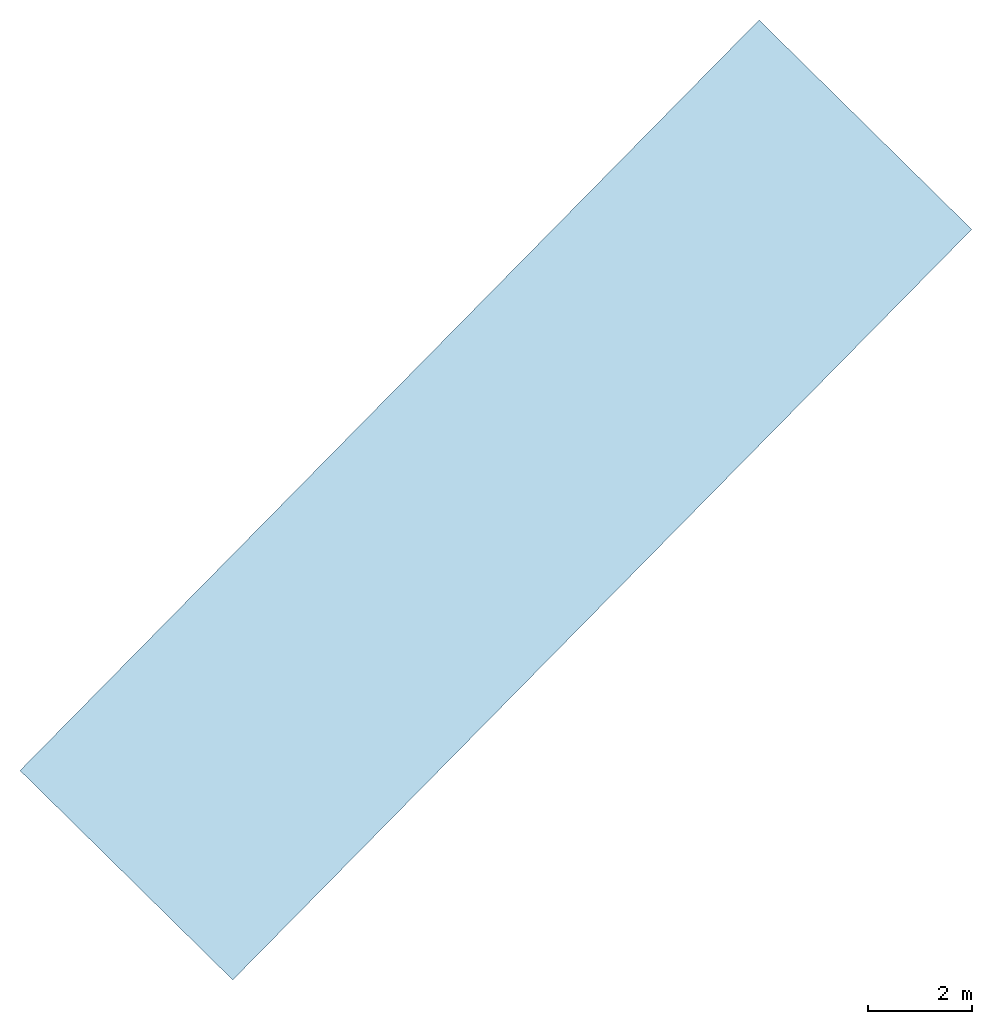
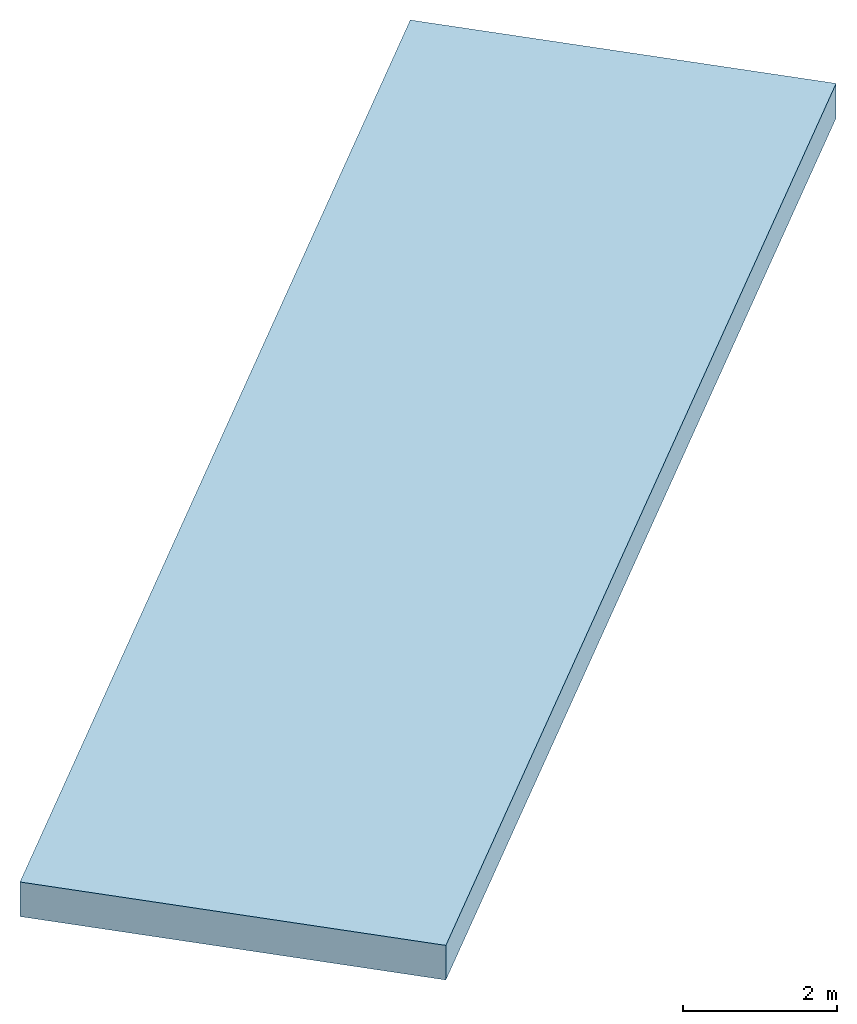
# One storey: 1 slab.
"""IFC2X3 building model written with IfcOpenShell, lengths in millimetres."""

from ifc_helpers import new_model, entity, si_unit, converted_unit, derived_unit, direction, frame, origin, origin_with_axes, place, context, subcontext, project, spatial, faceted_brep, material, layer, layer_set, type_object, element, save


model = new_model("IFC2X3")

# Units and contexts
model_context = context("Model", 3, precision=0.01, world=origin(), true_north=direction((6.12323399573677e-17, 1.0)))
plan_context = context("Plan", 3, precision=1e-05, world=origin_with_axes())
body_context = subcontext(model_context, "Body", "Model", "MODEL_VIEW")
ifc_project = project(units=[converted_unit("PLANEANGLEUNIT", "DEGREE", entity("IfcPositiveLengthMeasure", 0.0174532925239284), si_unit("PLANEANGLEUNIT", "RADIAN"), dimensions=[0, 0, 0, 0, 0, 0, 0]), si_unit("AREAUNIT", "SQUARE_METRE"), si_unit("LENGTHUNIT", "METRE", prefix="MILLI"), si_unit("MASSUNIT", "GRAM", prefix="KILO"), si_unit("POWERUNIT", "WATT"), si_unit("PRESSUREUNIT", "PASCAL", prefix="KILO"), si_unit("FORCEUNIT", "NEWTON", prefix="KILO"), si_unit("ELECTRICVOLTAGEUNIT", "VOLT"), si_unit("ELECTRICCURRENTUNIT", "AMPERE"), si_unit("THERMODYNAMICTEMPERATUREUNIT", "DEGREE_CELSIUS"), si_unit("TIMEUNIT", "SECOND"), si_unit("VOLUMEUNIT", "CUBIC_METRE"), derived_unit("LINEARVELOCITYUNIT", [(si_unit("LENGTHUNIT", "METRE"), 1), (si_unit("TIMEUNIT", "SECOND"), -1)]), derived_unit("VOLUMETRICFLOWRATEUNIT", [(si_unit("VOLUMEUNIT", "CUBIC_METRE"), 1), (si_unit("TIMEUNIT", "SECOND"), -1)]), derived_unit("THERMALTRANSMITTANCEUNIT", [(si_unit("POWERUNIT", "WATT"), 1), (si_unit("THERMODYNAMICTEMPERATUREUNIT", "KELVIN"), -1), (si_unit("AREAUNIT", "SQUARE_METRE"), -1)]), derived_unit("SOUNDPRESSUREUNIT", [(si_unit("PRESSUREUNIT", "PASCAL"), 1)])], contexts=[model_context, plan_context])

# Site, building, storey
site_placement = place(None, frame((0.0, -2.21771188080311e-09, 0.0), z_axis=(0.0, 0.0, 1.0), x_axis=(0.266093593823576, -0.963947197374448, 0.0)))
site = spatial("IfcSite", under=ifc_project, at=site_placement, Name="ENZV", CompositionType="ELEMENT")
building_placement = place(site_placement, origin_with_axes())
building = spatial("IfcBuilding", under=site, at=building_placement, Name="ZV001", CompositionType="ELEMENT")
storey_placement = place(building_placement, frame((0.0, 0.0, 13200.0), z_axis=(0.0, 0.0, 1.0), x_axis=(1.0, 0.0, 0.0)))
storey = spatial("IfcBuildingStorey", under=building, at=storey_placement, Name="H03", CompositionType="ELEMENT", Elevation=13200.0)

# Slab
ifc_material = material(Name="<Unnamed>")
ifc_layer = layer(ifc_material, 550.0)
ifc_layer_set = layer_set([ifc_layer], Name="Floor:Standard 550mm")
slab_type = type_object("IfcSlabType", Name="Floor:Standard 550mm", PredefinedType="FLOOR", material=ifc_layer_set)
slab_placement = place(storey_placement, origin_with_axes())
element("IfcSlab", 1, at=slab_placement, inside=storey, type_object=slab_type, Name="Floor:Standard 550mm", ObjectType="Floor:Standard 550mm", PredefinedType="FLOOR", context=body_context, shape_type="Brep", body=[
    faceted_brep([(-59997.0066526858, 305262.613111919, 0.0), (-55034.084767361, 308129.190337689, 0.0), (-44918.3740607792, 290615.80133844, 0.0), (-49881.2959461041, 287749.22411267, 2.27373675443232e-13), (-55034.084767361, 308129.190337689, -550.000000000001), (-59997.0066526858, 305262.613111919, -550.000000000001), (-49881.2959461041, 287749.22411267, -550.000000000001), (-44918.3740607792, 290615.80133844, -550.000000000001)], [[[0, 1, 2, 3]], [[4, 5, 6, 7]], [[3, 2, 7, 6]], [[2, 1, 4, 7]], [[1, 0, 5, 4]], [[0, 3, 6, 5]]], orient=[[False], [False], [False], [False], [False], [False]]),
])

save(model, "model.ifc")
